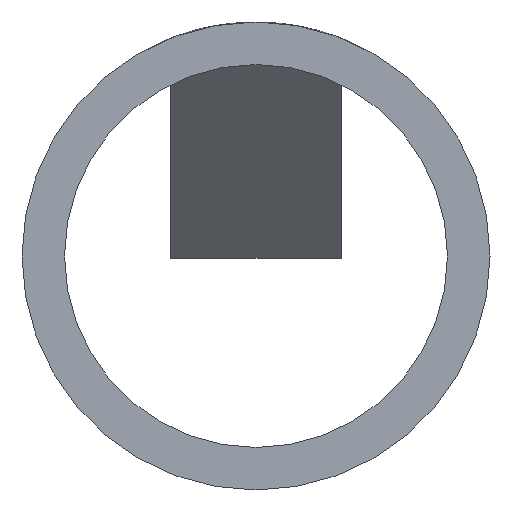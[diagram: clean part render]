
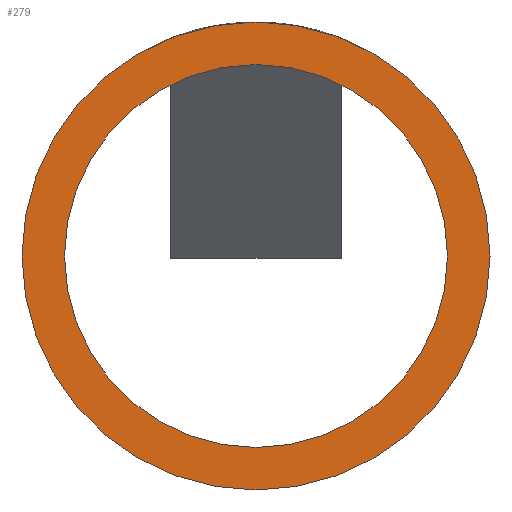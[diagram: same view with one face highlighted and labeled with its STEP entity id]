
A CAD part, front view. The second image highlights one B-rep face of the part: STEP entity #279.
In plain terms, the highlighted planar face has unit normal (0, -1, 0).
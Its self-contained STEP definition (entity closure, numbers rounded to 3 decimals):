
#28 = EDGE_LOOP ( 'NONE', ( #73, #70 ) ) ;
#51 = CIRCLE ( 'NONE', #218, 4.5 ) ;
#70 = ORIENTED_EDGE ( 'NONE', *, *, #186, .T. ) ;
#73 = ORIENTED_EDGE ( 'NONE', *, *, #224, .T. ) ;
#109 = EDGE_LOOP ( 'NONE', ( #152, #145 ) ) ;
#126 = CIRCLE ( 'NONE', #249, 5.5 ) ;
#130 = CIRCLE ( 'NONE', #219, 4.5 ) ;
#145 = ORIENTED_EDGE ( 'NONE', *, *, #217, .F. ) ;
#152 = ORIENTED_EDGE ( 'NONE', *, *, #220, .F. ) ;
#153 = CIRCLE ( 'NONE', #238, 5.5 ) ;
#173 = FACE_BOUND ( 'NONE', #109, .T. ) ;
#179 = FACE_OUTER_BOUND ( 'NONE', #28, .T. ) ;
#186 = EDGE_CURVE ( 'NONE', #484, #376, #126, .T. ) ;
#217 = EDGE_CURVE ( 'NONE', #349, #466, #130, .T. ) ;
#218 = AXIS2_PLACEMENT_3D ( 'NONE', #358, #486, #487 ) ;
#219 = AXIS2_PLACEMENT_3D ( 'NONE', #472, #468, #469 ) ;
#220 = EDGE_CURVE ( 'NONE', #466, #349, #51, .T. ) ;
#224 = EDGE_CURVE ( 'NONE', #376, #484, #153, .T. ) ;
#233 = AXIS2_PLACEMENT_3D ( 'NONE', #437, #450, #449 ) ;
#238 = AXIS2_PLACEMENT_3D ( 'NONE', #359, #490, #368 ) ;
#249 = AXIS2_PLACEMENT_3D ( 'NONE', #345, #344, #463 ) ;
#279 = ADVANCED_FACE ( 'NONE', ( #179, #173 ), #436, .T. ) ;
#344 = DIRECTION ( 'NONE',  ( 0., -1., 0. ) ) ;
#345 = CARTESIAN_POINT ( 'NONE',  ( 0., 0., 0. ) ) ;
#349 = VERTEX_POINT ( 'NONE', #444 ) ;
#358 = CARTESIAN_POINT ( 'NONE',  ( 0., 0., 0. ) ) ;
#359 = CARTESIAN_POINT ( 'NONE',  ( 0., 0., 0. ) ) ;
#368 = DIRECTION ( 'NONE',  ( -1., 0., 0. ) ) ;
#376 = VERTEX_POINT ( 'NONE', #432 ) ;
#394 = CARTESIAN_POINT ( 'NONE',  ( -5.5, 0., 0. ) ) ;
#432 = CARTESIAN_POINT ( 'NONE',  ( 5.5, 0., 0. ) ) ;
#435 = CARTESIAN_POINT ( 'NONE',  ( 4.5, 0., 0. ) ) ;
#436 = PLANE ( 'NONE',  #233 ) ;
#437 = CARTESIAN_POINT ( 'NONE',  ( 0., 0., 0. ) ) ;
#444 = CARTESIAN_POINT ( 'NONE',  ( -4.5, 0., 0. ) ) ;
#449 = DIRECTION ( 'NONE',  ( -1., 0., 0. ) ) ;
#450 = DIRECTION ( 'NONE',  ( 0., -1., 0. ) ) ;
#463 = DIRECTION ( 'NONE',  ( -1., 0., 0. ) ) ;
#466 = VERTEX_POINT ( 'NONE', #435 ) ;
#468 = DIRECTION ( 'NONE',  ( 0., -1., 0. ) ) ;
#469 = DIRECTION ( 'NONE',  ( -1., 0., 0. ) ) ;
#472 = CARTESIAN_POINT ( 'NONE',  ( 0., 0., 0. ) ) ;
#484 = VERTEX_POINT ( 'NONE', #394 ) ;
#486 = DIRECTION ( 'NONE',  ( 0., -1., 0. ) ) ;
#487 = DIRECTION ( 'NONE',  ( -1., 0., 0. ) ) ;
#490 = DIRECTION ( 'NONE',  ( 0., -1., 0. ) ) ;
